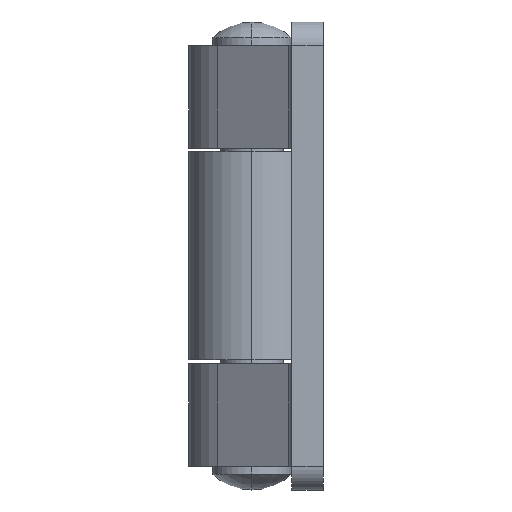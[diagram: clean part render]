
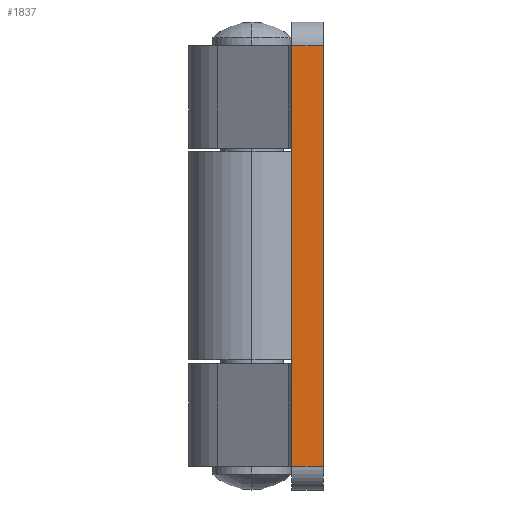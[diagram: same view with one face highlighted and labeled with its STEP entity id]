
A CAD part, left-side view. The second image highlights one B-rep face of the part: STEP entity #1837.
In plain terms, the highlighted planar face has unit normal (-1, 0, 0).
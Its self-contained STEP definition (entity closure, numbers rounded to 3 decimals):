
#33 = DIRECTION ( 'NONE',  ( 0., 1., 0. ) ) ;
#94 = ORIENTED_EDGE ( 'NONE', *, *, #2173, .T. ) ;
#125 = LINE ( 'NONE', #2684, #1184 ) ;
#174 = VERTEX_POINT ( 'NONE', #454 ) ;
#279 = VERTEX_POINT ( 'NONE', #1635 ) ;
#398 = ORIENTED_EDGE ( 'NONE', *, *, #437, .T. ) ;
#437 = EDGE_CURVE ( 'NONE', #1085, #1370, #125, .T. ) ;
#454 = CARTESIAN_POINT ( 'NONE',  ( -30., -9., 56. ) ) ;
#524 = LINE ( 'NONE', #1552, #2708 ) ;
#537 = VECTOR ( 'NONE', #2530, 1000. ) ;
#698 = CARTESIAN_POINT ( 'NONE',  ( -30., -9., 56. ) ) ;
#787 = DIRECTION ( 'NONE',  ( 0., -1., 0. ) ) ;
#1085 = VERTEX_POINT ( 'NONE', #2290 ) ;
#1184 = VECTOR ( 'NONE', #787, 1000. ) ;
#1251 = CARTESIAN_POINT ( 'NONE',  ( -30., -9., 59. ) ) ;
#1333 = DIRECTION ( 'NONE',  ( 0., 0., -1. ) ) ;
#1370 = VERTEX_POINT ( 'NONE', #1604 ) ;
#1552 = CARTESIAN_POINT ( 'NONE',  ( -30., -5., 59. ) ) ;
#1604 = CARTESIAN_POINT ( 'NONE',  ( -30., -9., 3. ) ) ;
#1615 = CARTESIAN_POINT ( 'NONE',  ( -30., -9., 59. ) ) ;
#1635 = CARTESIAN_POINT ( 'NONE',  ( -30., -5., 56. ) ) ;
#1639 = VECTOR ( 'NONE', #33, 1000. ) ;
#1686 = LINE ( 'NONE', #1251, #537 ) ;
#1718 = AXIS2_PLACEMENT_3D ( 'NONE', #1615, #2040, #2467 ) ;
#1788 = LINE ( 'NONE', #698, #1639 ) ;
#1837 = ADVANCED_FACE ( 'NONE', ( #2110 ), #2252, .T. ) ;
#1998 = ORIENTED_EDGE ( 'NONE', *, *, #2108, .T. ) ;
#2033 = ORIENTED_EDGE ( 'NONE', *, *, #2438, .F. ) ;
#2040 = DIRECTION ( 'NONE',  ( -1., 0., 0. ) ) ;
#2063 = EDGE_LOOP ( 'NONE', ( #2033, #1998, #94, #398 ) ) ;
#2108 = EDGE_CURVE ( 'NONE', #174, #279, #1788, .T. ) ;
#2110 = FACE_OUTER_BOUND ( 'NONE', #2063, .T. ) ;
#2173 = EDGE_CURVE ( 'NONE', #279, #1085, #524, .T. ) ;
#2252 = PLANE ( 'NONE',  #1718 ) ;
#2290 = CARTESIAN_POINT ( 'NONE',  ( -30., -5., 3. ) ) ;
#2438 = EDGE_CURVE ( 'NONE', #174, #1370, #1686, .T. ) ;
#2467 = DIRECTION ( 'NONE',  ( 0., 0., 1. ) ) ;
#2530 = DIRECTION ( 'NONE',  ( 0., 0., -1. ) ) ;
#2684 = CARTESIAN_POINT ( 'NONE',  ( -30., -9., 3. ) ) ;
#2708 = VECTOR ( 'NONE', #1333, 1000. ) ;
